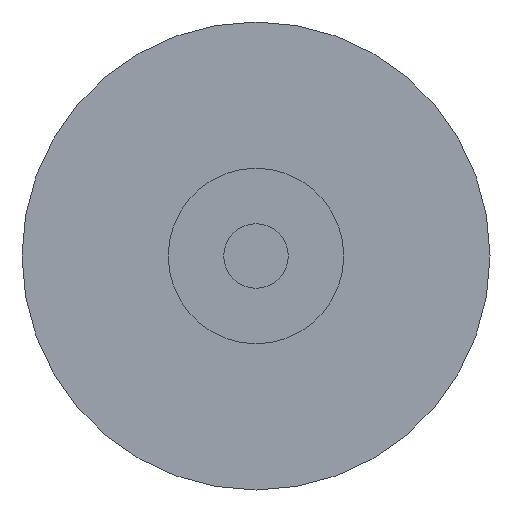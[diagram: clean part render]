
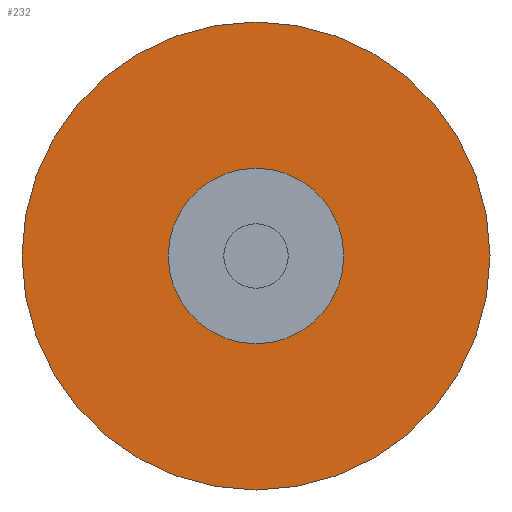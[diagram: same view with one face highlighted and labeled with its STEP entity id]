
A CAD part, front view. The second image highlights one B-rep face of the part: STEP entity #232.
In plain terms, the highlighted planar face has unit normal (0, -1, 0).
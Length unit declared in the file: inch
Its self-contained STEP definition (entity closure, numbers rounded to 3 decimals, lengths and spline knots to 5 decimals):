
#8 = CARTESIAN_POINT ( 'NONE',  ( 0., -0.36, 0.5 ) ) ;
#21 = VERTEX_POINT ( 'NONE', #8 ) ;
#25 = CARTESIAN_POINT ( 'NONE',  ( 0., -0.36, -0.1875 ) ) ;
#35 = VERTEX_POINT ( 'NONE', #25 ) ;
#37 = VERTEX_POINT ( 'NONE', #41 ) ;
#41 = CARTESIAN_POINT ( 'NONE',  ( 0., -0.36, -0.5 ) ) ;
#46 = CARTESIAN_POINT ( 'NONE',  ( 0., -0.36, 0.1875 ) ) ;
#47 = VERTEX_POINT ( 'NONE', #46 ) ;
#75 = CARTESIAN_POINT ( 'NONE',  ( -1.10557, -0.36, 0. ) ) ;
#77 = DIRECTION ( 'NONE',  ( 0., 1., 0. ) ) ;
#90 = DIRECTION ( 'NONE',  ( 0., 0., 1. ) ) ;
#91 = PLANE ( 'NONE',  #390 ) ;
#102 = DIRECTION ( 'NONE',  ( 0., 0., 1. ) ) ;
#107 = CARTESIAN_POINT ( 'NONE',  ( 0., -0.36, 0. ) ) ;
#129 = DIRECTION ( 'NONE',  ( 0., 1., 0. ) ) ;
#142 = DIRECTION ( 'NONE',  ( 0., 0., 1. ) ) ;
#150 = DIRECTION ( 'NONE',  ( 0., 1., 0. ) ) ;
#151 = DIRECTION ( 'NONE',  ( 0., 0., 1. ) ) ;
#152 = CARTESIAN_POINT ( 'NONE',  ( 0., -0.36, 0. ) ) ;
#158 = DIRECTION ( 'NONE',  ( 0., 1., 0. ) ) ;
#161 = CARTESIAN_POINT ( 'NONE',  ( 0., -0.36, 0. ) ) ;
#167 = DIRECTION ( 'NONE',  ( 0., 0., 1. ) ) ;
#171 = DIRECTION ( 'NONE',  ( 0., 1., 0. ) ) ;
#182 = CARTESIAN_POINT ( 'NONE',  ( 0., -0.36, 0. ) ) ;
#186 = CIRCLE ( 'NONE', #367, 0.5 ) ;
#204 = CIRCLE ( 'NONE', #369, 0.1875 ) ;
#216 = CIRCLE ( 'NONE', #399, 0.1875 ) ;
#232 = ADVANCED_FACE ( 'NONE', ( #295, #289 ), #91, .F. ) ;
#256 = ORIENTED_EDGE ( 'NONE', *, *, #430, .T. ) ;
#289 = FACE_OUTER_BOUND ( 'NONE', #345, .T. ) ;
#295 = FACE_BOUND ( 'NONE', #348, .T. ) ;
#333 = CIRCLE ( 'NONE', #374, 0.5 ) ;
#345 = EDGE_LOOP ( 'NONE', ( #357, #362 ) ) ;
#348 = EDGE_LOOP ( 'NONE', ( #256, #350 ) ) ;
#350 = ORIENTED_EDGE ( 'NONE', *, *, #420, .T. ) ;
#357 = ORIENTED_EDGE ( 'NONE', *, *, #410, .F. ) ;
#362 = ORIENTED_EDGE ( 'NONE', *, *, #403, .F. ) ;
#367 = AXIS2_PLACEMENT_3D ( 'NONE', #161, #158, #142 ) ;
#369 = AXIS2_PLACEMENT_3D ( 'NONE', #152, #150, #151 ) ;
#374 = AXIS2_PLACEMENT_3D ( 'NONE', #107, #129, #102 ) ;
#390 = AXIS2_PLACEMENT_3D ( 'NONE', #75, #77, #90 ) ;
#399 = AXIS2_PLACEMENT_3D ( 'NONE', #182, #171, #167 ) ;
#403 = EDGE_CURVE ( 'NONE', #37, #21, #333, .T. ) ;
#410 = EDGE_CURVE ( 'NONE', #21, #37, #186, .T. ) ;
#420 = EDGE_CURVE ( 'NONE', #35, #47, #204, .T. ) ;
#430 = EDGE_CURVE ( 'NONE', #47, #35, #216, .T. ) ;
